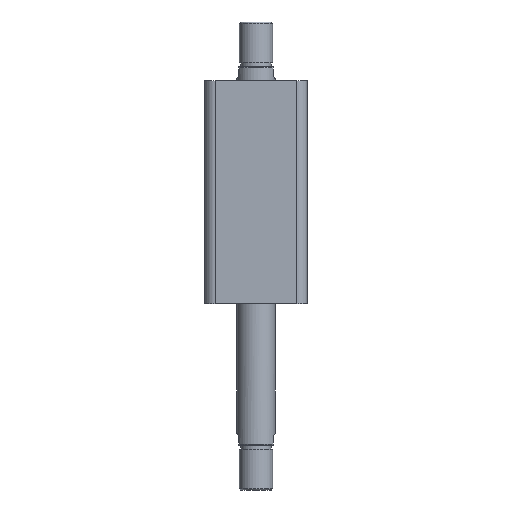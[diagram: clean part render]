
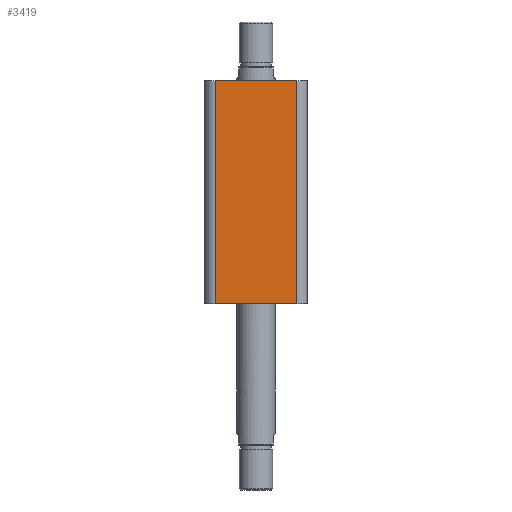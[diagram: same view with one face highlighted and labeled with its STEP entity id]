
A CAD part, front view. The second image highlights one B-rep face of the part: STEP entity #3419.
In plain terms, the highlighted planar face has unit normal (0, -1, 0).
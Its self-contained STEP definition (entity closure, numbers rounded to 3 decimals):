
#12 = CARTESIAN_POINT ( 'NONE',  ( 32., -40., 175. ) ) ;
#46 = VERTEX_POINT ( 'NONE', #12 ) ;
#697 = EDGE_CURVE ( 'NONE', #1573, #46, #1814, .T. ) ;
#699 = EDGE_CURVE ( 'NONE', #1573, #2141, #1808, .T. ) ;
#700 = EDGE_CURVE ( 'NONE', #2141, #2147, #1816, .T. ) ;
#701 = EDGE_CURVE ( 'NONE', #2147, #46, #1820, .T. ) ;
#938 = ORIENTED_EDGE ( 'NONE', *, *, #701, .T. ) ;
#939 = ORIENTED_EDGE ( 'NONE', *, *, #700, .T. ) ;
#940 = ORIENTED_EDGE ( 'NONE', *, *, #699, .T. ) ;
#941 = ORIENTED_EDGE ( 'NONE', *, *, #697, .F. ) ;
#1351 = AXIS2_PLACEMENT_3D ( 'NONE', #2996, #3004, #3005 ) ;
#1573 = VERTEX_POINT ( 'NONE', #2890 ) ;
#1808 = LINE ( 'NONE', #2683, #1819 ) ;
#1814 = LINE ( 'NONE', #2694, #1817 ) ;
#1816 = LINE ( 'NONE', #2688, #1821 ) ;
#1817 = VECTOR ( 'NONE', #2695, 1000. ) ;
#1819 = VECTOR ( 'NONE', #2696, 1000. ) ;
#1820 = LINE ( 'NONE', #2698, #1823 ) ;
#1821 = VECTOR ( 'NONE', #2697, 1000. ) ;
#1823 = VECTOR ( 'NONE', #2699, 1000. ) ;
#2072 = FACE_OUTER_BOUND ( 'NONE', #2323, .T. ) ;
#2141 = VERTEX_POINT ( 'NONE', #2921 ) ;
#2147 = VERTEX_POINT ( 'NONE', #2927 ) ;
#2323 = EDGE_LOOP ( 'NONE', ( #941, #940, #939, #938 ) ) ;
#2683 = CARTESIAN_POINT ( 'NONE',  ( -32., -40., 175. ) ) ;
#2688 = CARTESIAN_POINT ( 'NONE',  ( -40., -40., 0. ) ) ;
#2694 = CARTESIAN_POINT ( 'NONE',  ( -40., -40., 175. ) ) ;
#2695 = DIRECTION ( 'NONE',  ( 1., 0., 0. ) ) ;
#2696 = DIRECTION ( 'NONE',  ( 0., 0., -1. ) ) ;
#2697 = DIRECTION ( 'NONE',  ( 1., 0., 0. ) ) ;
#2698 = CARTESIAN_POINT ( 'NONE',  ( 32., -40., 175. ) ) ;
#2699 = DIRECTION ( 'NONE',  ( 0., 0., 1. ) ) ;
#2890 = CARTESIAN_POINT ( 'NONE',  ( -32., -40., 175. ) ) ;
#2921 = CARTESIAN_POINT ( 'NONE',  ( -32., -40., 0. ) ) ;
#2927 = CARTESIAN_POINT ( 'NONE',  ( 32., -40., 0. ) ) ;
#2996 = CARTESIAN_POINT ( 'NONE',  ( -40., -40., 175. ) ) ;
#3001 = PLANE ( 'NONE',  #1351 ) ;
#3004 = DIRECTION ( 'NONE',  ( 0., 1., 0. ) ) ;
#3005 = DIRECTION ( 'NONE',  ( 0., 0., 1. ) ) ;
#3419 = ADVANCED_FACE ( 'NONE', ( #2072 ), #3001, .F. ) ;
